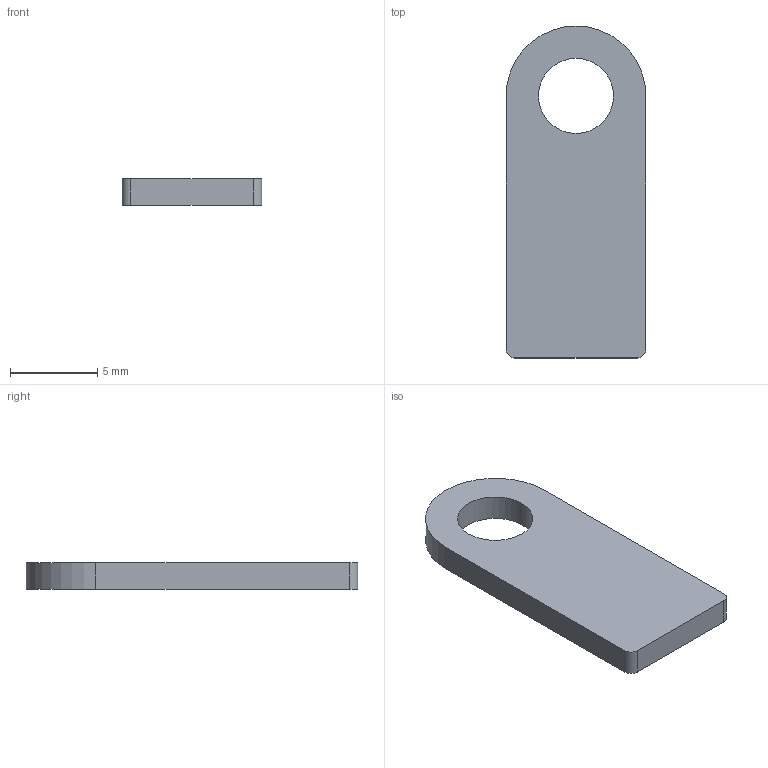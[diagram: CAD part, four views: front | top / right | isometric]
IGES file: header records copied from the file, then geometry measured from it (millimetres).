
Start section: START RECORD GO HERE.
Global section: file name: 20M_EL_090010  (chape battery protection) .igs; native system: IBM CATIA IGES - CATIA Version 5 Release 19 ; preprocessor: CATIA Version 5 Release 19 ; author: mik75; organization: LAPTOP-SUH344G9; date: 20200123.174127; units: millimetre
Bounding box: 8 x 19 x 1.5 mm (x, y, z)
Surface area: 356.5 mm2 (no closed solid volume)
Topology: 0 solids, 0 shells, 10 faces, 48 edges, 48 vertices
Faces by surface type: revolution 5, plane 5
